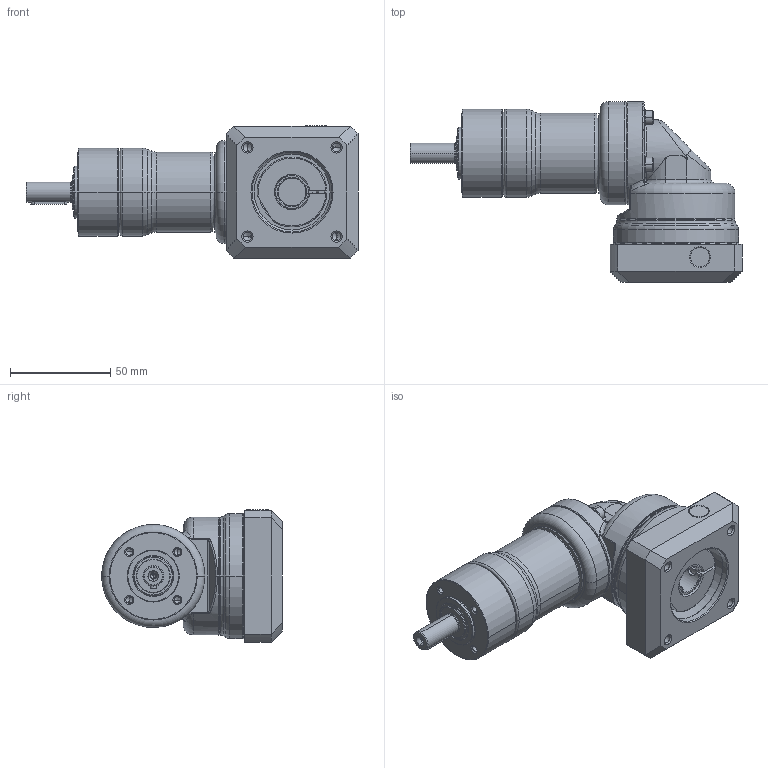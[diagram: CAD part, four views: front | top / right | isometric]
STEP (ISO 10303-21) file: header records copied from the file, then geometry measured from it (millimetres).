
FILE_DESCRIPTION((''),'2;1');
FILE_NAME('PG2R-040_3ST_14-P0411300101_ASM','2016-04-26T',('d01943'),(''),'PRO/ENGINEER BY PARAMETRIC TECHNOLOGY CORPORATION, 2008410','PRO/ENGINEER BY PARAMETRIC TECHNOLOGY CORPORATION, 2008410','');
FILE_SCHEMA(('CONFIG_CONTROL_DESIGN'));
Length unit declared in the file: millimetre
Products named in the file (12): P1325100001; P0273100001; P0350101103; P1349100001; P1017100001; P0713102001; P0503300005; P1350100201; P0411300101; P1702300001; 2111B104015; PG2R-040_3ST_14-P0411300101_ASM
Assembly tree (14 placements, depth 2):
  PG2R-040_3ST_14-P0411300101_ASM
    P1325100001
    P0273100001
    P0350101103
    P1349100001
    P1017100001
    P0713102001
    P0503300005
    P1350100201
    P0411300101
    P1702300001
    2111B104015  x4
Bounding box: 166 x 90.25 x 66 mm (x, y, z)
Volume: 209985.1 mm3; surface area: 83943.1 mm2
Topology: 14 solids, 15 shells, 733 faces, 1597 edges, 924 vertices
Faces by surface type: cylinder 224, cone 206, plane 162, torus 106, bspline 35
Entity records: 22980 total; most frequent: CARTESIAN_POINT 8842, DIRECTION 3156, ORIENTED_EDGE 2718, EDGE_CURVE 1359, AXIS2_PLACEMENT_3D 1339, VERTEX_POINT 804, EDGE_LOOP 717, CIRCLE 714
